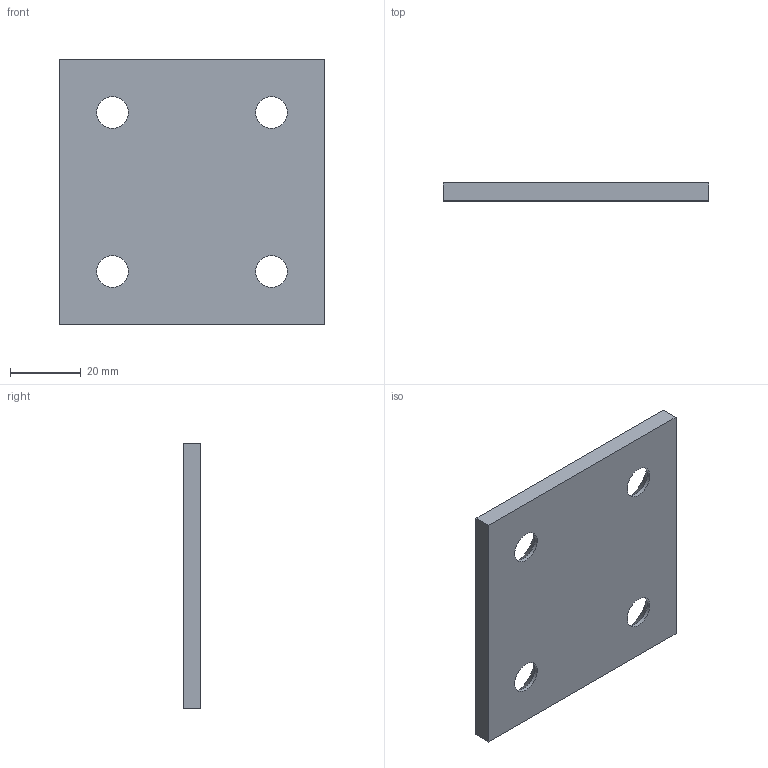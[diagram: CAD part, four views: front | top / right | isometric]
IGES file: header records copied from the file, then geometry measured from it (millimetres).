
Start section: Data from Parasolid IGES Translator 20.0.26, Copyright(c) 2006 Siemens P LM Software. All Rights Reserved.
Global section: file name: P605-01-075-075.igs; native system: By Siemens PLM Incorporated; preprocessor: XPlus GENERIC/IGES 20.0.26; author: Noname; organization: Noname; date: 20190705.150038; units: millimetre
Bounding box: 75 x 5 x 75 mm (x, y, z)
Surface area: 12624.8 mm2 (no closed solid volume)
Topology: 0 solids, 0 shells, 14 faces, 64 edges, 54 vertices
Faces by surface type: revolution 8, extrusion 6
